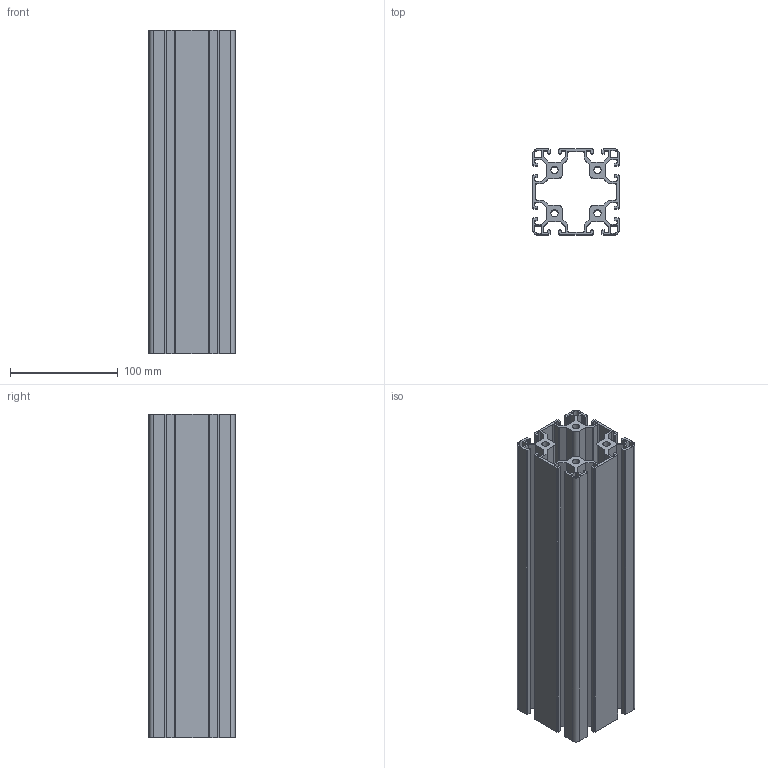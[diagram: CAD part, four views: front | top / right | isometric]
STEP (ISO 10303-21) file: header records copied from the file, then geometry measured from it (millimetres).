
FILE_DESCRIPTION (( 'STEP AP203' ), '1' );
FILE_NAME ('39-CE-8080-8.STEP', '2015-07-07T03:51:16', ( '' ), ( '' ), 'SwSTEP 2.0', 'SolidWorks 2013', '' );
FILE_SCHEMA (( 'CONFIG_CONTROL_DESIGN' ));
Length unit declared in the file: millimetre
Products named in the file (1): 39-CE-8080-8
Bounding box: 80 x 80 x 300 mm (x, y, z)
Volume: 509460.8 mm3; surface area: 358244.2 mm2
Topology: 1 solids, 1 shells, 342 faces, 1020 edges, 680 vertices
Faces by surface type: plane 194, cylinder 148
Entity records: 11653 total; most frequent: CARTESIAN_POINT 2043, ORIENTED_EDGE 2040, DIRECTION 2002, EDGE_CURVE 1020, VECTOR 724, LINE 724, VERTEX_POINT 680, AXIS2_PLACEMENT_3D 639
